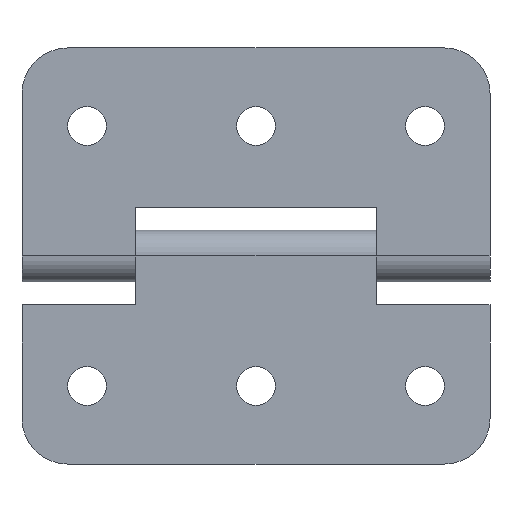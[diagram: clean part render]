
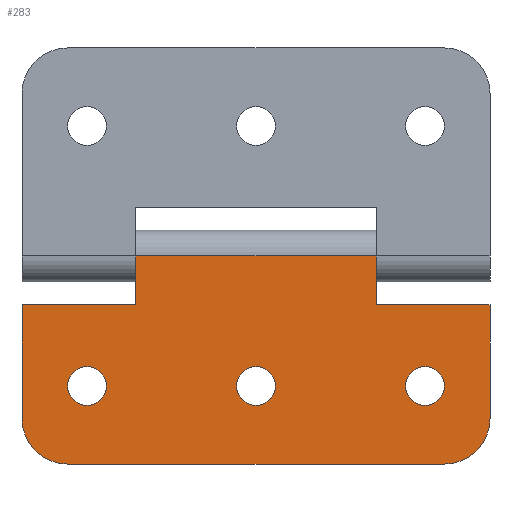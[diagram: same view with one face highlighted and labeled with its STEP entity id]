
A CAD part, left-side view. The second image highlights one B-rep face of the part: STEP entity #283.
In plain terms, the highlighted planar face has unit normal (-1, 0, 0) as drawn and (0, 0, -1) by its records, which use the part's own axes.
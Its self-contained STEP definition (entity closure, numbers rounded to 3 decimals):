
#5 = EDGE_CURVE ( 'NONE', #411, #231, #496, .T. ) ;
#17 = VERTEX_POINT ( 'NONE', #593 ) ;
#23 = VERTEX_POINT ( 'NONE', #635 ) ;
#53 = EDGE_CURVE ( 'NONE', #23, #1965, #824, .T. ) ;
#60 = EDGE_LOOP ( 'NONE', ( #222, #323 ) ) ;
#65 = EDGE_CURVE ( 'NONE', #372, #1965, #968, .T. ) ;
#73 = ORIENTED_EDGE ( 'NONE', *, *, #1940, .T. ) ;
#128 = ORIENTED_EDGE ( 'NONE', *, *, #65, .F. ) ;
#139 = VERTEX_POINT ( 'NONE', #534 ) ;
#173 = ORIENTED_EDGE ( 'NONE', *, *, #5, .T. ) ;
#197 = EDGE_CURVE ( 'NONE', #246, #1935, #704, .T. ) ;
#207 = VERTEX_POINT ( 'NONE', #748 ) ;
#212 = VERTEX_POINT ( 'NONE', #773 ) ;
#222 = ORIENTED_EDGE ( 'NONE', *, *, #286, .T. ) ;
#228 = EDGE_LOOP ( 'NONE', ( #173, #439 ) ) ;
#231 = VERTEX_POINT ( 'NONE', #859 ) ;
#246 = VERTEX_POINT ( 'NONE', #991 ) ;
#251 = VERTEX_POINT ( 'NONE', #1006 ) ;
#271 = ORIENTED_EDGE ( 'NONE', *, *, #341, .F. ) ;
#283 = ADVANCED_FACE ( 'NONE', ( #1115, #1116, #1117, #1118 ), #1119, .F. ) ;
#286 = EDGE_CURVE ( 'NONE', #251, #691, #1125, .T. ) ;
#312 = EDGE_CURVE ( 'NONE', #691, #251, #1204, .T. ) ;
#323 = ORIENTED_EDGE ( 'NONE', *, *, #312, .T. ) ;
#341 = EDGE_CURVE ( 'NONE', #139, #392, #1287, .T. ) ;
#347 = EDGE_CURVE ( 'NONE', #212, #392, #1309, .T. ) ;
#357 = EDGE_CURVE ( 'NONE', #207, #896, #1340, .T. ) ;
#372 = VERTEX_POINT ( 'NONE', #1388 ) ;
#385 = ORIENTED_EDGE ( 'NONE', *, *, #357, .F. ) ;
#389 = ORIENTED_EDGE ( 'NONE', *, *, #1962, .T. ) ;
#392 = VERTEX_POINT ( 'NONE', #1441 ) ;
#395 = EDGE_CURVE ( 'NONE', #231, #411, #1451, .T. ) ;
#396 = ORIENTED_EDGE ( 'NONE', *, *, #347, .T. ) ;
#404 = EDGE_CURVE ( 'NONE', #207, #1103, #865, .T. ) ;
#411 = VERTEX_POINT ( 'NONE', #916 ) ;
#439 = ORIENTED_EDGE ( 'NONE', *, *, #395, .T. ) ;
#472 = LINE ( 'NONE', #473, #474 ) ;
#473 = CARTESIAN_POINT ( 'NONE',  ( 3.75, -18., -2. ) ) ;
#474 = VECTOR ( 'NONE', #476, 1000. ) ;
#476 = DIRECTION ( 'NONE',  ( 0., 1., 0. ) ) ;
#496 = CIRCLE ( 'NONE', #497, 1.5 ) ;
#497 = AXIS2_PLACEMENT_3D ( 'NONE', #498, #499, #500 ) ;
#498 = CARTESIAN_POINT ( 'NONE',  ( 10., 0., -2. ) ) ;
#499 = DIRECTION ( 'NONE',  ( 0., 0., 1. ) ) ;
#500 = DIRECTION ( 'NONE',  ( -1., 0., 0. ) ) ;
#513 = CARTESIAN_POINT ( 'NONE',  ( 3.75, 18., -2. ) ) ;
#534 = CARTESIAN_POINT ( 'NONE',  ( 0., 9.25, -2. ) ) ;
#593 = CARTESIAN_POINT ( 'NONE',  ( 16., 14.5, -2. ) ) ;
#635 = CARTESIAN_POINT ( 'NONE',  ( 3.75, 9.25, -2. ) ) ;
#641 = ORIENTED_EDGE ( 'NONE', *, *, #1033, .T. ) ;
#666 = CARTESIAN_POINT ( 'NONE',  ( 11.5, 13., -2. ) ) ;
#691 = VERTEX_POINT ( 'NONE', #666 ) ;
#704 = CIRCLE ( 'NONE', #705, 1.5 ) ;
#705 = AXIS2_PLACEMENT_3D ( 'NONE', #706, #707, #708 ) ;
#706 = CARTESIAN_POINT ( 'NONE',  ( 10., -13., -2. ) ) ;
#707 = DIRECTION ( 'NONE',  ( 0., 0., 1. ) ) ;
#708 = DIRECTION ( 'NONE',  ( -1., 0., 0. ) ) ;
#748 = CARTESIAN_POINT ( 'NONE',  ( 12.5, -18., -2. ) ) ;
#773 = CARTESIAN_POINT ( 'NONE',  ( 3.75, -9.25, -2. ) ) ;
#775 = CARTESIAN_POINT ( 'NONE',  ( 16., -14.5, -2. ) ) ;
#818 = CIRCLE ( 'NONE', #819, 1.5 ) ;
#819 = AXIS2_PLACEMENT_3D ( 'NONE', #820, #821, #822 ) ;
#820 = CARTESIAN_POINT ( 'NONE',  ( 10., -13., -2. ) ) ;
#821 = DIRECTION ( 'NONE',  ( 0., 0., 1. ) ) ;
#822 = DIRECTION ( 'NONE',  ( -1., 0., 0. ) ) ;
#824 = LINE ( 'NONE', #825, #826 ) ;
#825 = CARTESIAN_POINT ( 'NONE',  ( 3.75, 18., -2. ) ) ;
#826 = VECTOR ( 'NONE', #827, 1000. ) ;
#827 = DIRECTION ( 'NONE',  ( 0., 1., 0. ) ) ;
#859 = CARTESIAN_POINT ( 'NONE',  ( 11.5, 0., -2. ) ) ;
#860 = LINE ( 'NONE', #861, #863 ) ;
#861 = CARTESIAN_POINT ( 'NONE',  ( 16., 18., -2. ) ) ;
#863 = VECTOR ( 'NONE', #864, 1000. ) ;
#864 = DIRECTION ( 'NONE',  ( 0., -1., 0. ) ) ;
#865 = LINE ( 'NONE', #866, #867 ) ;
#866 = CARTESIAN_POINT ( 'NONE',  ( 0., -18., -2. ) ) ;
#867 = VECTOR ( 'NONE', #868, 1000. ) ;
#868 = DIRECTION ( 'NONE',  ( -1., 0., 0. ) ) ;
#896 = VERTEX_POINT ( 'NONE', #775 ) ;
#916 = CARTESIAN_POINT ( 'NONE',  ( 8.5, 0., -2. ) ) ;
#956 = CARTESIAN_POINT ( 'NONE',  ( 3.75, -18., -2. ) ) ;
#968 = LINE ( 'NONE', #969, #970 ) ;
#969 = CARTESIAN_POINT ( 'NONE',  ( 0., 18., -2. ) ) ;
#970 = VECTOR ( 'NONE', #971, 1000. ) ;
#971 = DIRECTION ( 'NONE',  ( -1., 0., 0. ) ) ;
#991 = CARTESIAN_POINT ( 'NONE',  ( 8.5, -13., -2. ) ) ;
#998 = EDGE_CURVE ( 'NONE', #1935, #246, #818, .T. ) ;
#1006 = CARTESIAN_POINT ( 'NONE',  ( 8.5, 13., -2. ) ) ;
#1015 = EDGE_LOOP ( 'NONE', ( #1953, #641, #385, #1646, #389, #396, #271, #73, #1881, #128 ) ) ;
#1033 = EDGE_CURVE ( 'NONE', #17, #896, #860, .T. ) ;
#1103 = VERTEX_POINT ( 'NONE', #956 ) ;
#1115 = FACE_OUTER_BOUND ( 'NONE', #1015, .T. ) ;
#1116 = FACE_BOUND ( 'NONE', #60, .T. ) ;
#1117 = FACE_BOUND ( 'NONE', #228, .T. ) ;
#1118 = FACE_BOUND ( 'NONE', #1944, .T. ) ;
#1119 = PLANE ( 'NONE',  #1121 ) ;
#1121 = AXIS2_PLACEMENT_3D ( 'NONE', #1122, #1123, #1124 ) ;
#1122 = CARTESIAN_POINT ( 'NONE',  ( 16., 18., -2. ) ) ;
#1123 = DIRECTION ( 'NONE',  ( 0., 0., 1. ) ) ;
#1124 = DIRECTION ( 'NONE',  ( 1., 0., 0. ) ) ;
#1125 = CIRCLE ( 'NONE', #1126, 1.5 ) ;
#1126 = AXIS2_PLACEMENT_3D ( 'NONE', #1127, #1128, #1129 ) ;
#1127 = CARTESIAN_POINT ( 'NONE',  ( 10., 13., -2. ) ) ;
#1128 = DIRECTION ( 'NONE',  ( 0., 0., 1. ) ) ;
#1129 = DIRECTION ( 'NONE',  ( -1., 0., 0. ) ) ;
#1204 = CIRCLE ( 'NONE', #1205, 1.5 ) ;
#1205 = AXIS2_PLACEMENT_3D ( 'NONE', #1206, #1207, #1208 ) ;
#1206 = CARTESIAN_POINT ( 'NONE',  ( 10., 13., -2. ) ) ;
#1207 = DIRECTION ( 'NONE',  ( 0., 0., 1. ) ) ;
#1208 = DIRECTION ( 'NONE',  ( -1., 0., 0. ) ) ;
#1287 = LINE ( 'NONE', #1288, #1289 ) ;
#1288 = CARTESIAN_POINT ( 'NONE',  ( 0., 18., -2. ) ) ;
#1289 = VECTOR ( 'NONE', #1290, 1000. ) ;
#1290 = DIRECTION ( 'NONE',  ( 0., -1., 0. ) ) ;
#1309 = LINE ( 'NONE', #1310, #1311 ) ;
#1310 = CARTESIAN_POINT ( 'NONE',  ( -2., -9.25, -2. ) ) ;
#1311 = VECTOR ( 'NONE', #1312, 1000. ) ;
#1312 = DIRECTION ( 'NONE',  ( -1., 0., 0. ) ) ;
#1340 = CIRCLE ( 'NONE', #1341, 3.5 ) ;
#1341 = AXIS2_PLACEMENT_3D ( 'NONE', #1342, #1343, #1344 ) ;
#1342 = CARTESIAN_POINT ( 'NONE',  ( 12.5, -14.5, -2. ) ) ;
#1343 = DIRECTION ( 'NONE',  ( 0., 0., 1. ) ) ;
#1344 = DIRECTION ( 'NONE',  ( -1., 0., 0. ) ) ;
#1388 = CARTESIAN_POINT ( 'NONE',  ( 12.5, 18., -2. ) ) ;
#1433 = CARTESIAN_POINT ( 'NONE',  ( 11.5, -13., -2. ) ) ;
#1434 = CIRCLE ( 'NONE', #1435, 3.5 ) ;
#1435 = AXIS2_PLACEMENT_3D ( 'NONE', #1436, #1439, #1440 ) ;
#1436 = CARTESIAN_POINT ( 'NONE',  ( 12.5, 14.5, -2. ) ) ;
#1438 = ORIENTED_EDGE ( 'NONE', *, *, #197, .T. ) ;
#1439 = DIRECTION ( 'NONE',  ( 0., 0., 1. ) ) ;
#1440 = DIRECTION ( 'NONE',  ( 1., 0., 0. ) ) ;
#1441 = CARTESIAN_POINT ( 'NONE',  ( 0., -9.25, -2. ) ) ;
#1442 = LINE ( 'NONE', #1443, #1444 ) ;
#1443 = CARTESIAN_POINT ( 'NONE',  ( -2., 9.25, -2. ) ) ;
#1444 = VECTOR ( 'NONE', #1445, 1000. ) ;
#1445 = DIRECTION ( 'NONE',  ( 1., 0., 0. ) ) ;
#1451 = CIRCLE ( 'NONE', #1452, 1.5 ) ;
#1452 = AXIS2_PLACEMENT_3D ( 'NONE', #1453, #1454, #1457 ) ;
#1453 = CARTESIAN_POINT ( 'NONE',  ( 10., 0., -2. ) ) ;
#1454 = DIRECTION ( 'NONE',  ( 0., 0., 1. ) ) ;
#1457 = DIRECTION ( 'NONE',  ( -1., 0., 0. ) ) ;
#1527 = ORIENTED_EDGE ( 'NONE', *, *, #998, .T. ) ;
#1646 = ORIENTED_EDGE ( 'NONE', *, *, #404, .T. ) ;
#1881 = ORIENTED_EDGE ( 'NONE', *, *, #53, .T. ) ;
#1935 = VERTEX_POINT ( 'NONE', #1433 ) ;
#1937 = EDGE_CURVE ( 'NONE', #17, #372, #1434, .T. ) ;
#1940 = EDGE_CURVE ( 'NONE', #139, #23, #1442, .T. ) ;
#1944 = EDGE_LOOP ( 'NONE', ( #1438, #1527 ) ) ;
#1953 = ORIENTED_EDGE ( 'NONE', *, *, #1937, .F. ) ;
#1962 = EDGE_CURVE ( 'NONE', #1103, #212, #472, .T. ) ;
#1965 = VERTEX_POINT ( 'NONE', #513 ) ;
